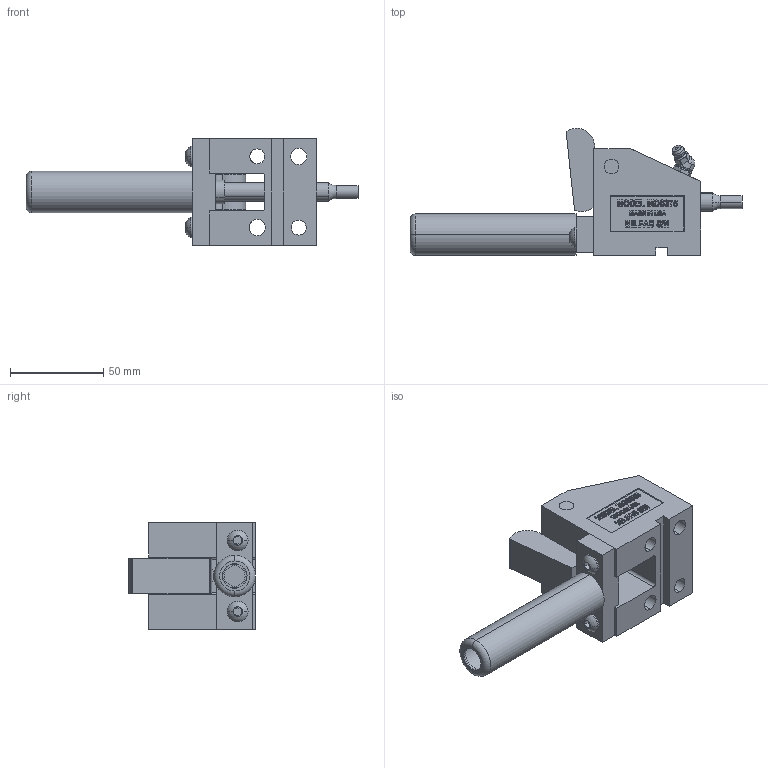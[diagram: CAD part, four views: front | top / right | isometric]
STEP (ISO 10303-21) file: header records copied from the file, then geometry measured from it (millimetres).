
FILE_DESCRIPTION (( 'STEP AP214' ), '1' );
FILE_NAME ('MOS375-O.STEP', '2014-01-06T20:21:14', ( 'user' ), ( '' ), 'SwSTEP 2.0', 'SolidWorks 2009', '' );
FILE_SCHEMA (( 'AUTOMOTIVE_DESIGN' ));
Length unit declared in the file: inch
Products named in the file (10): 375-O-STRAP; GREASE ZERK; OS375-CAGE; 1-4 SCREW; MOS375-O; M-O-375-POINT; MOS375-PUNCH; MOS375-BODY; 375-TRIGGER; 375 PIVOT PIN
Assembly tree (10 placements, depth 2):
  MOS375-O
    1-4 SCREW  x2
    375 PIVOT PIN
    M-O-375-POINT
    OS375-CAGE
    MOS375-PUNCH
    MOS375-BODY
    GREASE ZERK
    375-O-STRAP
    375-TRIGGER
Bounding box: 177.8 x 67.99 x 57.15 mm (x, y, z)
Volume: 155597.9 mm3; surface area: 55197.5 mm2
Topology: 10 solids, 10 shells, 599 faces, 1558 edges, 1027 vertices
Faces by surface type: plane 349, bspline 109, cylinder 91, cone 24, torus 22, sphere 4
Entity records: 24333 total; most frequent: CARTESIAN_POINT 10398, ORIENTED_EDGE 3032, DIRECTION 2376, EDGE_CURVE 1516, VERTEX_POINT 1001, VECTOR 992, LINE 992, AXIS2_PLACEMENT_3D 692
